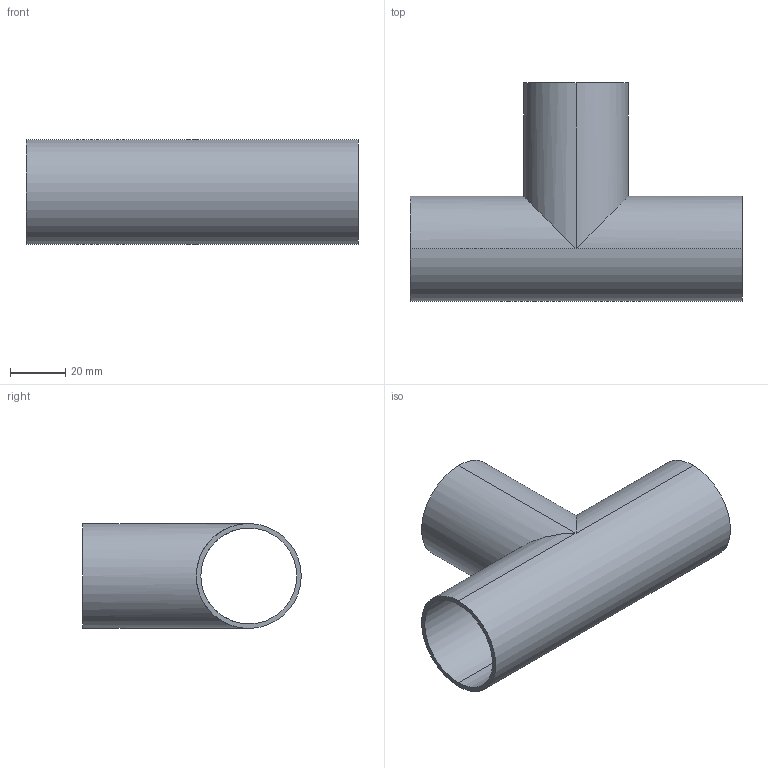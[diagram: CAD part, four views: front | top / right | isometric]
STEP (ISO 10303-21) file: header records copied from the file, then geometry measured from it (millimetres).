
FILE_DESCRIPTION (( 'STEP AP214' ), '1' );
FILE_NAME ('TE7WWW6L1.5-...STEP', '2016-05-23T06:21:37', ( 'eran' ), ( '' ), 'SwSTEP 2.0', 'SolidWorks 2016', '' );
FILE_SCHEMA (( 'AUTOMOTIVE_DESIGN' ));
Length unit declared in the file: millimetre
Products named in the file (1): TE7WWW6L1.5-..
Bounding box: 120.6 x 79.35 x 38.1 mm (x, y, z)
Volume: 29792.4 mm3; surface area: 36671.6 mm2
Topology: 1 solids, 1 shells, 13 faces, 28 edges, 16 vertices
Faces by surface type: cylinder 10, plane 3
Entity records: 392 total; most frequent: CARTESIAN_POINT 70, DIRECTION 64, ORIENTED_EDGE 56, EDGE_CURVE 28, AXIS2_PLACEMENT_3D 26, VERTEX_POINT 16, EDGE_LOOP 16, FACE_OUTER_BOUND 13
